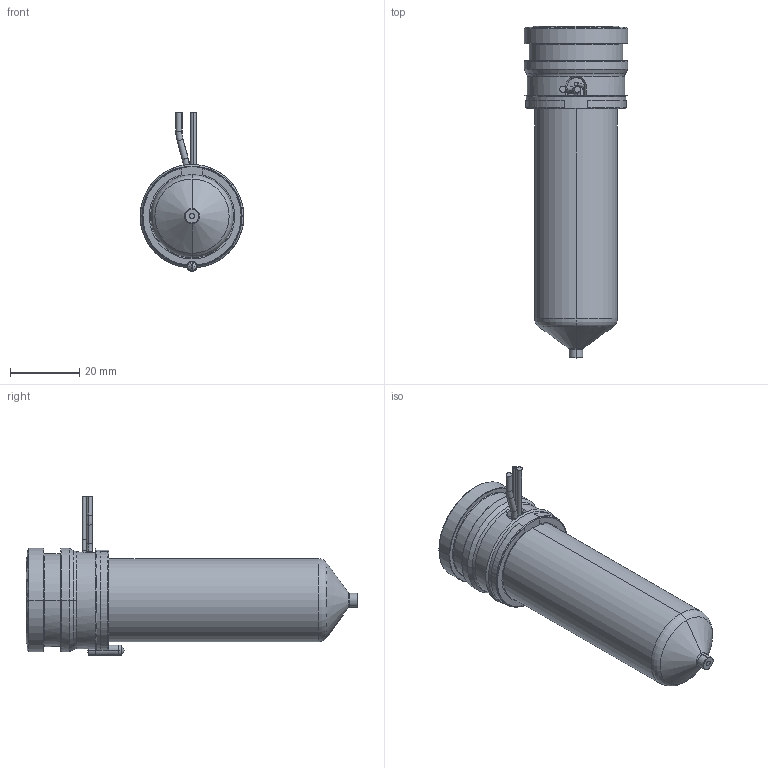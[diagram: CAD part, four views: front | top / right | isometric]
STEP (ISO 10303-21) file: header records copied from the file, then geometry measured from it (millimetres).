
FILE_DESCRIPTION((''),'2;1');
FILE_NAME('MPN-10-29-VP4-076-A','2026-02-05T12:42:22',('UPTIO'),('Thermoplay S.p.A.'),'CREO PARAMETRIC BY PTC INC, 2023494','CREO PARAMETRIC BY PTC INC, 2023494','');
FILE_SCHEMA(('CONFIG_CONTROL_DESIGN','SHAPE_APPEARANCE_LAYERS_GROUPS'));
Length unit declared in the file: millimetre
Products named in the file (1): MPN-10-29-VP4-076-A
Bounding box: 30 x 96.1 x 46 mm (x, y, z)
Volume: 30977.2 mm3; surface area: 30835 mm2
Topology: 2 solids, 3 shells, 583 faces, 1552 edges, 967 vertices
Faces by surface type: cylinder 180, plane 156, bspline 98, torus 70, cone 68, sphere 7, extrusion 4
Entity records: 31253 total; most frequent: CARTESIAN_POINT 14271, ORIENTED_EDGE 3092, DIRECTION 2700, EDGE_CURVE 1546, AXIS2_PLACEMENT_3D 1067, VERTEX_POINT 967, EDGE_LOOP 611, CIRCLE 585
